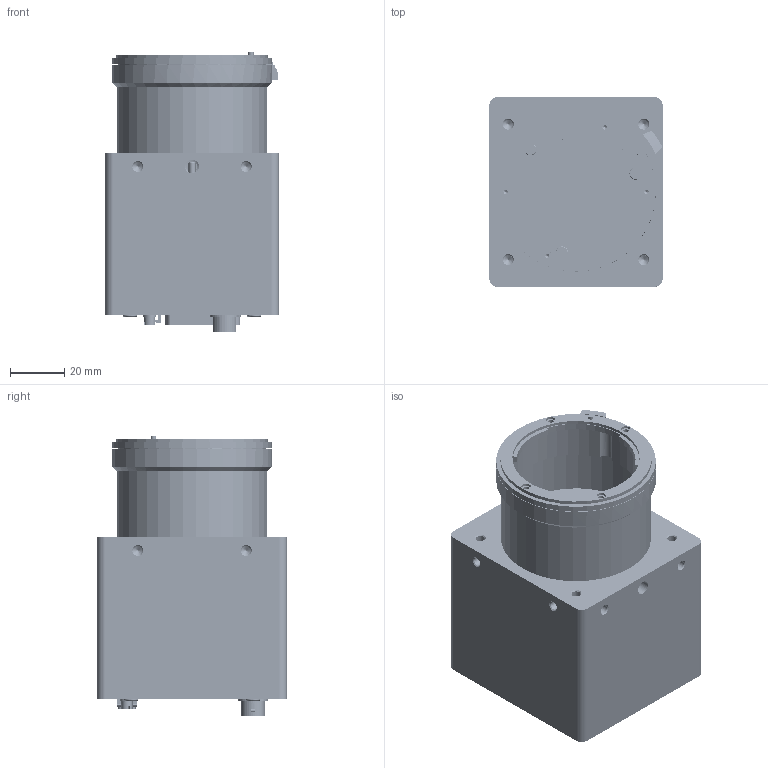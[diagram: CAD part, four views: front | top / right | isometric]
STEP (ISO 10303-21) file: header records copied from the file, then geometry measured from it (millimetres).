
FILE_DESCRIPTION (( 'STEP AP214' ), '1' );
FILE_NAME ('SU2020_SU2025.STEP', '2019-04-17T04:26:25', ( '' ), ( '' ), 'SwSTEP 2.0', 'SolidWorks 2016', '' );
FILE_SCHEMA (( 'AUTOMOTIVE_DESIGN' ));
Length unit declared in the file: millimetre
Products named in the file (34): 基板^C5-1049-02-36／インターフェイス基板_PCB-SU2025-IF-00#F; 基板^C5-1046-03-36／センサ基板_PCB-SU2025-S-01#F; C5-5086-00-44_6／ソケット_MG-1-1-6; C5-5094-00-43_4／コネクタ_HR10G-7R-4PB; C5-5152-00-43／コネクタロック用ネジ_3341-31J; C5-5175-00-43_2／ピッチコネクタ_FX8C-100P-SV2; C5-5029-00-40_06／六角穴付ボルト M2.6X06 SUS_SCB2.6-6; C5-5133-00-43／コネクタ_10226-2210PE; C5-5171-00-43_5／ピッチコネクタ_FX8C-100S-SV5; 14-87-422-41-117101; C5-1047-01-36／メイン基板_PCB-SU2020-M-00#F; C5-5135-00-43／発光ダイオード(緑)_SLR-332MG-3F; ナット^C5-5094-00-43_4／コネクタ_HR10G-7R-4PB; C5-5080-00-44_6乛僺儞晅6儘僽 SUS M2.6x6; Part5^C5-1047-01-36／メイン基板_PCB-SU2020-M-00#F; Fマウント; CZA07011／アトメルマウント; C4-1074-02-37／フロントパネル; C4-1062-04-36／リアカバー; C5-5091-00-43_10／コネクタ_DF11-10DP-2DS; C5-5231-00-43／0.5mmﾋﾟｯﾁFFC用ｺﾈｸﾀ_FH12-50S-0.5SV; C5-5012-00-40_06／座付きなべ頭小ねじ（P=4) M2.6X06 SUS_CSPPNZP-SUS-M2.6-6; コネクタ^C5-5094-00-43_4／コネクタ_HR10G-7R-4PB; C5-5078-00-44_18／六角スペーサ_2.6SQ-18; C4-1064-01-36／胴体; C5-5078-00-44_7／六角スペーサ_2.6SQ-7; ATMELマウント本体筒; 菊座^C5-5094-00-43_4／コネクタ_HR10G-7R-4PB; C5-5074-00-44_3_3／中空スペーサ_EM-3A; C5-5078-00-44_25／六角スペーサ_2.6SQ-25; C5-1046-03-36／センサ基板_PCB-SU2025-S-01#F; SU2020_SU2025; C5-5012-00-40_10／座付きなべ頭小ねじ（P=4) M2.6X10 SUS_CSPPNZP-SUS-M2.6-10; C5-1049-02-36／インターフェイス基板_PCB-SU2025-IF-00#F
Assembly tree (49 placements, depth 3):
  SU2020_SU2025
    C4-1062-04-36／リアカバー
    C4-1064-01-36／胴体
    C4-1074-02-37／フロントパネル
    CZA07011／アトメルマウント
      ATMELマウント本体筒
      Fマウント
    C5-5094-00-43_4／コネクタ_HR10G-7R-4PB
      コネクタ^C5-5094-00-43_4／コネクタ_HR10G-7R-4PB
      菊座^C5-5094-00-43_4／コネクタ_HR10G-7R-4PB
      ナット^C5-5094-00-43_4／コネクタ_HR10G-7R-4PB
    C5-1046-03-36／センサ基板_PCB-SU2025-S-01#F
      基板^C5-1046-03-36／センサ基板_PCB-SU2025-S-01#F
      14-87-422-41-117101
      C5-5231-00-43／0.5mmﾋﾟｯﾁFFC用ｺﾈｸﾀ_FH12-50S-0.5SV
    C5-1047-01-36／メイン基板_PCB-SU2020-M-00#F
      Part5^C5-1047-01-36／メイン基板_PCB-SU2020-M-00#F
      C5-5091-00-43_10／コネクタ_DF11-10DP-2DS
      C5-5231-00-43／0.5mmﾋﾟｯﾁFFC用ｺﾈｸﾀ_FH12-50S-0.5SV
      C5-5175-00-43_2／ピッチコネクタ_FX8C-100P-SV2
      C5-5086-00-44_6／ソケット_MG-1-1-6
    C5-1049-02-36／インターフェイス基板_PCB-SU2025-IF-00#F
      基板^C5-1049-02-36／インターフェイス基板_PCB-SU2025-IF-00#F
      C5-5133-00-43／コネクタ_10226-2210PE
      C5-5171-00-43_5／ピッチコネクタ_FX8C-100S-SV5
      C5-5135-00-43／発光ダイオード(緑)_SLR-332MG-3F
      C5-5074-00-44_3_3／中空スペーサ_EM-3A
    C5-5078-00-44_7／六角スペーサ_2.6SQ-7  x3
    C5-5078-00-44_18／六角スペーサ_2.6SQ-18  x4
    C5-5078-00-44_25／六角スペーサ_2.6SQ-25  x4
    C5-5029-00-40_06／六角穴付ボルト M2.6X06 SUS_SCB2.6-6  x3
    C5-5012-00-40_06／座付きなべ頭小ねじ（P=4) M2.6X06 SUS_CSPPNZP-SUS-M2.6-6  x2
    C5-5012-00-40_10／座付きなべ頭小ねじ（P=4) M2.6X10 SUS_CSPPNZP-SUS-M2.6-10
    C5-5080-00-44_6乛僺儞晅6儘僽 SUS M2.6x6  x4
    C5-5152-00-43／コネクタロック用ネジ_3341-31J  x2
Bounding box: 64 x 70 x 103.19 mm (x, y, z)
Volume: 117957.1 mm3; surface area: 105998.3 mm2
Topology: 62 solids, 65 shells, 8923 faces, 24332 edges, 16022 vertices
Faces by surface type: plane 6635, cylinder 1478, bspline 431, cone 360, torus 12, sphere 7
Full cylindrical faces by diameter (mm): 0.19 x1, 0.4 x2, 0.45 x12, 0.5 x4, 0.56 x22, 0.6 x2, 0.76 x22, 0.8 x8, 0.9 x2, 1 x26, 1.1 x22, 1.18 x22, 1.46 x22, 1.5 x2, 1.6 x4, 2 x16, 2.2 x32, 2.261 x4, 2.288 x3, 2.6 x18, 2.8 x7, 3 x7, 3.2 x2, 3.3 x12, 3.5 x5, 4 x1, 4.1 x2, 4.5 x6, 4.8 x4, 5 x7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
Entity records: 247190 total; most frequent: CARTESIAN_POINT 58697, ORIENTED_EDGE 36212, DIRECTION 32321, EDGE_CURVE 18106, LINE 14467, VECTOR 14467, VERTEX_POINT 12301, AXIS2_PLACEMENT_3D 8927
